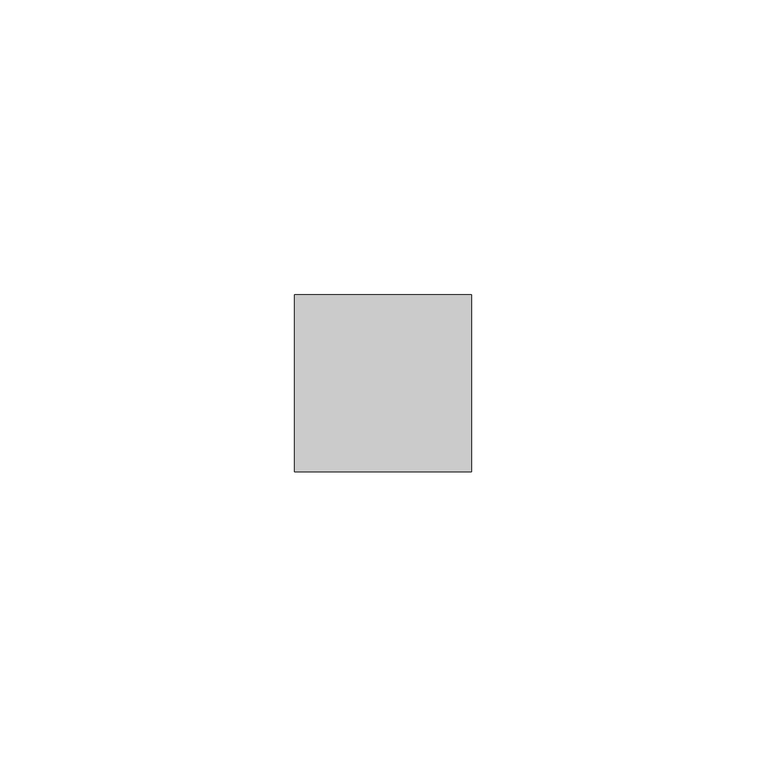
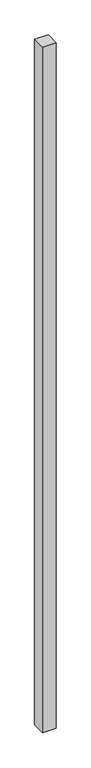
"""IFC4 building model written with IfcOpenShell, lengths in millimetres: member geometry, 矩形竖梃 : 30mm 正方形."""

from ifc_helpers import new_model, si_unit, frame, origin, place, context, project, spatial, polyline, outline, extrude, source, transform, mapped, element, save


def member_ded72f51(model_context):
    return source(origin(), model_context, "Body", "SweptSolid", [
        extrude(outline(polyline([(15.0, 15.0), (15.0, -15.0), (-15.0, -15.0), (-15.0, 15.0), (15.0, 15.0)])), frame((0.0, 0.0, -1600.0), z_axis=(0.0, 0.0, 1.0), x_axis=(1.0, 0.0, 0.0)), (0.0, 0.0, 1.0), 1600.0),
    ])


if __name__ == "__main__":
    model = new_model("IFC4")
    model_context = context("Model", 3, world=origin())
    ifc_project = project(units=[si_unit("LENGTHUNIT", "METRE", prefix="MILLI")], contexts=[model_context])
    site = spatial("IfcSite", under=ifc_project)
    building = spatial("IfcBuilding", under=site)
    placement = place(None, origin())
    member_shape = member_ded72f51(model_context)
    element("IfcMember", 1, ObjectType="矩形竖梃 : 30mm 正方形", at=placement, inside=building, context=model_context, shape_type="MappedRepresentation", body=[
        mapped(member_shape, transform((0.0, 0.0, 0.0), x_axis=(1.0, 0.0, 0.0), y_axis=(0.0, 1.0, 0.0), z_axis=(0.0, 0.0, 1.0))),
    ])
    save(model, "model.ifc")
